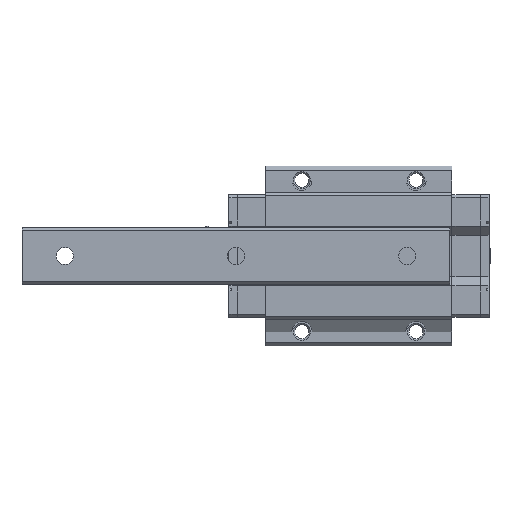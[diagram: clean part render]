
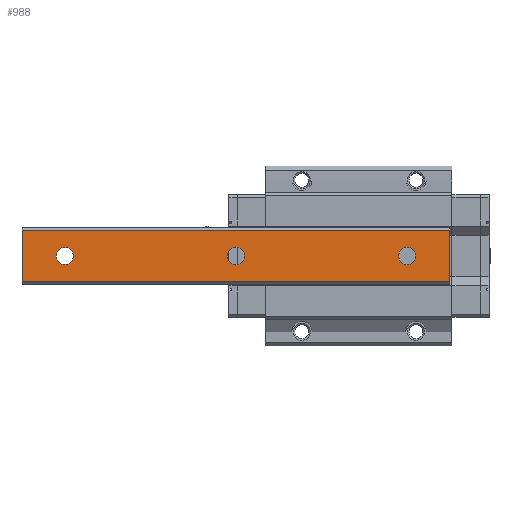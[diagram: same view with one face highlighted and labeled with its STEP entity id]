
A CAD part, front view. The second image highlights one B-rep face of the part: STEP entity #988.
In plain terms, the highlighted planar face has unit normal (0, -1, 0).
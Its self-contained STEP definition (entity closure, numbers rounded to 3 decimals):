
#988 = ADVANCED_FACE( '', ( #2189, #2190, #2191, #2192 ), #2193, .F. );
#2189 = FACE_BOUND( '', #3708, .T. );
#2190 = FACE_BOUND( '', #3709, .T. );
#2191 = FACE_BOUND( '', #3710, .T. );
#2192 = FACE_OUTER_BOUND( '', #3711, .T. );
#2193 = PLANE( '', #3712 );
#3708 = EDGE_LOOP( '', ( #6155 ) );
#3709 = EDGE_LOOP( '', ( #6156 ) );
#3710 = EDGE_LOOP( '', ( #6157 ) );
#3711 = EDGE_LOOP( '', ( #6158, #6159, #6160, #6161 ) );
#3712 = AXIS2_PLACEMENT_3D( '', #6162, #6163, #6164 );
#6155 = ORIENTED_EDGE( '', *, *, #9668, .F. );
#6156 = ORIENTED_EDGE( '', *, *, #9124, .F. );
#6157 = ORIENTED_EDGE( '', *, *, #9841, .F. );
#6158 = ORIENTED_EDGE( '', *, *, #9842, .T. );
#6159 = ORIENTED_EDGE( '', *, *, #9708, .F. );
#6160 = ORIENTED_EDGE( '', *, *, #9638, .F. );
#6161 = ORIENTED_EDGE( '', *, *, #9843, .T. );
#6162 = CARTESIAN_POINT( '', ( 75., 0., 9. ) );
#6163 = DIRECTION( '', ( 0., 1., 0. ) );
#6164 = DIRECTION( '', ( 0., 0., 1. ) );
#9124 = EDGE_CURVE( '', #10868, #10868, #10869, .T. );
#9638 = EDGE_CURVE( '', #11749, #11751, #11752, .T. );
#9668 = EDGE_CURVE( '', #11799, #11799, #11800, .T. );
#9708 = EDGE_CURVE( '', #11751, #11863, #11865, .T. );
#9841 = EDGE_CURVE( '', #12072, #12072, #12073, .T. );
#9842 = EDGE_CURVE( '', #12074, #11863, #12075, .T. );
#9843 = EDGE_CURVE( '', #11749, #12074, #12076, .T. );
#10868 = VERTEX_POINT( '', #13413 );
#10869 = CIRCLE( '', #13414, 3. );
#11749 = VERTEX_POINT( '', #14734 );
#11751 = VERTEX_POINT( '', #14737 );
#11752 = LINE( '', #14738, #14739 );
#11799 = VERTEX_POINT( '', #14800 );
#11800 = CIRCLE( '', #14801, 3. );
#11863 = VERTEX_POINT( '', #14887 );
#11865 = LINE( '', #14890, #14891 );
#12072 = VERTEX_POINT( '', #15192 );
#12073 = CIRCLE( '', #15193, 3. );
#12074 = VERTEX_POINT( '', #15194 );
#12075 = LINE( '', #15195, #15196 );
#12076 = LINE( '', #15197, #15198 );
#13413 = CARTESIAN_POINT( '', ( 60., 0., -3. ) );
#13414 = AXIS2_PLACEMENT_3D( '', #16941, #16942, #16943 );
#14734 = CARTESIAN_POINT( '', ( 75., 0., 9. ) );
#14737 = CARTESIAN_POINT( '', ( 75., 0., -9. ) );
#14738 = CARTESIAN_POINT( '', ( 75., 0., 9. ) );
#14739 = VECTOR( '', #17448, 1000. );
#14800 = CARTESIAN_POINT( '', ( 0., 0., -3. ) );
#14801 = AXIS2_PLACEMENT_3D( '', #17490, #17491, #17492 );
#14887 = CARTESIAN_POINT( '', ( -75., 0., -9. ) );
#14890 = CARTESIAN_POINT( '', ( 75., 0., -9. ) );
#14891 = VECTOR( '', #17538, 1000. );
#15192 = CARTESIAN_POINT( '', ( -60., 0., -3. ) );
#15193 = AXIS2_PLACEMENT_3D( '', #17670, #17671, #17672 );
#15194 = CARTESIAN_POINT( '', ( -75., 0., 9. ) );
#15195 = CARTESIAN_POINT( '', ( -75., 0., 9. ) );
#15196 = VECTOR( '', #17673, 1000. );
#15197 = CARTESIAN_POINT( '', ( 75., 0., 9. ) );
#15198 = VECTOR( '', #17674, 1000. );
#16941 = CARTESIAN_POINT( '', ( 60., 0., 0. ) );
#16942 = DIRECTION( '', ( 0., -1., 0. ) );
#16943 = DIRECTION( '', ( 0., 0., -1. ) );
#17448 = DIRECTION( '', ( 0., 0., -1. ) );
#17490 = CARTESIAN_POINT( '', ( 0., 0., 0. ) );
#17491 = DIRECTION( '', ( 0., -1., 0. ) );
#17492 = DIRECTION( '', ( 0., 0., -1. ) );
#17538 = DIRECTION( '', ( -1., 0., 0. ) );
#17670 = CARTESIAN_POINT( '', ( -60., 0., 0. ) );
#17671 = DIRECTION( '', ( 0., -1., 0. ) );
#17672 = DIRECTION( '', ( 0., 0., -1. ) );
#17673 = DIRECTION( '', ( 0., 0., -1. ) );
#17674 = DIRECTION( '', ( -1., 0., 0. ) );
